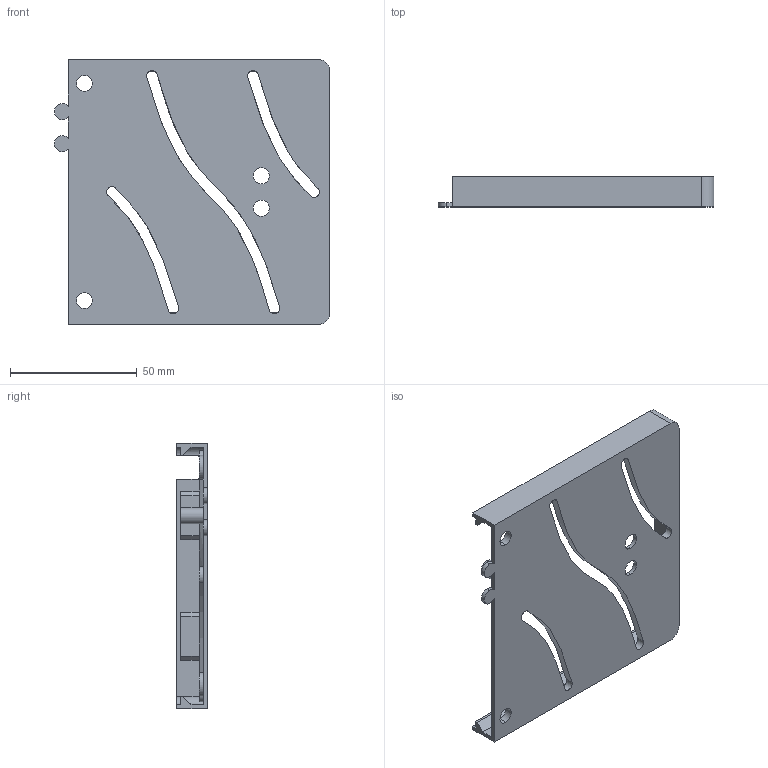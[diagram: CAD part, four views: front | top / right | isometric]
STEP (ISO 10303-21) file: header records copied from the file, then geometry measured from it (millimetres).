
FILE_DESCRIPTION (( 'STEP AP214' ), '1' );
FILE_NAME ('14 - Base Right.STEP', '2022-11-25T05:48:26', ( '' ), ( '' ), 'SwSTEP 2.0', 'SolidWorks 2021', '' );
FILE_SCHEMA (( 'AUTOMOTIVE_DESIGN' ));
Length unit declared in the file: inch
Products named in the file (1): 14 - Base Right
Bounding box: 108.74 x 11.91 x 104.78 mm (x, y, z)
Volume: 25540.6 mm3; surface area: 30493.4 mm2
Topology: 1 solids, 1 shells, 111 faces, 320 edges, 212 vertices
Faces by surface type: cylinder 48, plane 47, bspline 16
Entity records: 4372 total; most frequent: CARTESIAN_POINT 1398, ORIENTED_EDGE 640, DIRECTION 580, EDGE_CURVE 320, VERTEX_POINT 212, AXIS2_PLACEMENT_3D 194, VECTOR 192, LINE 192
